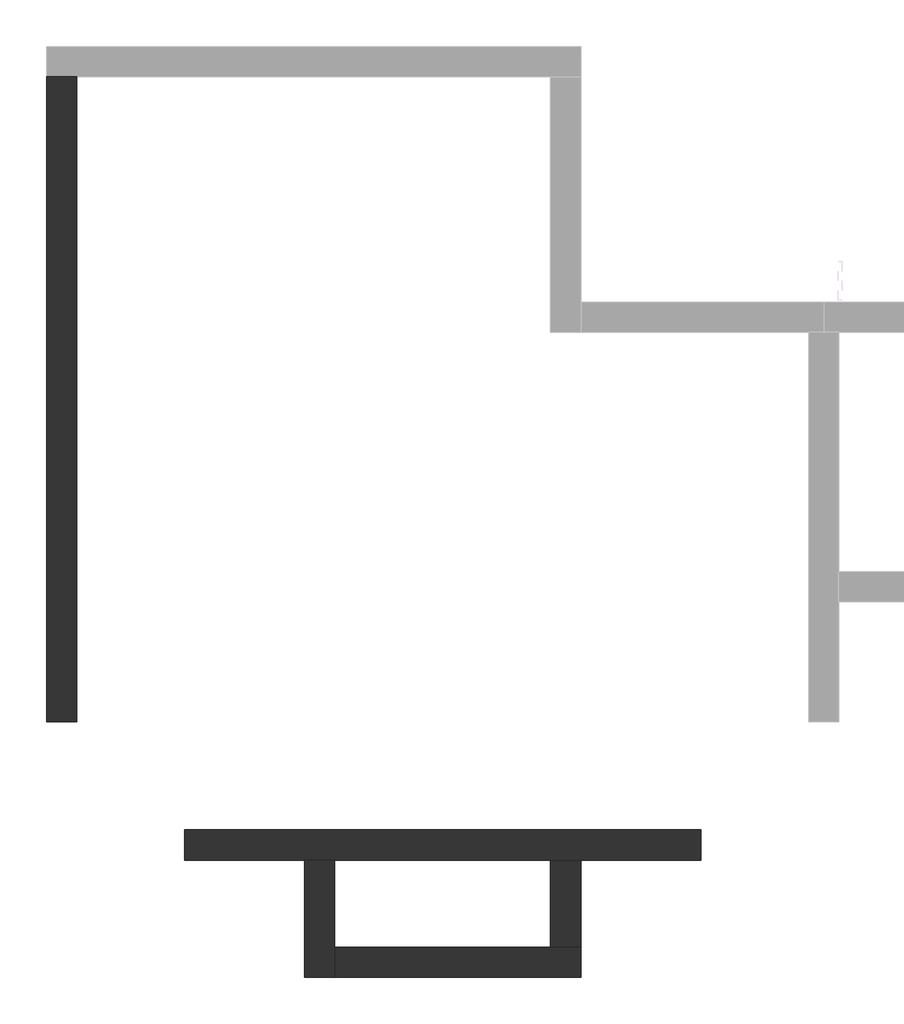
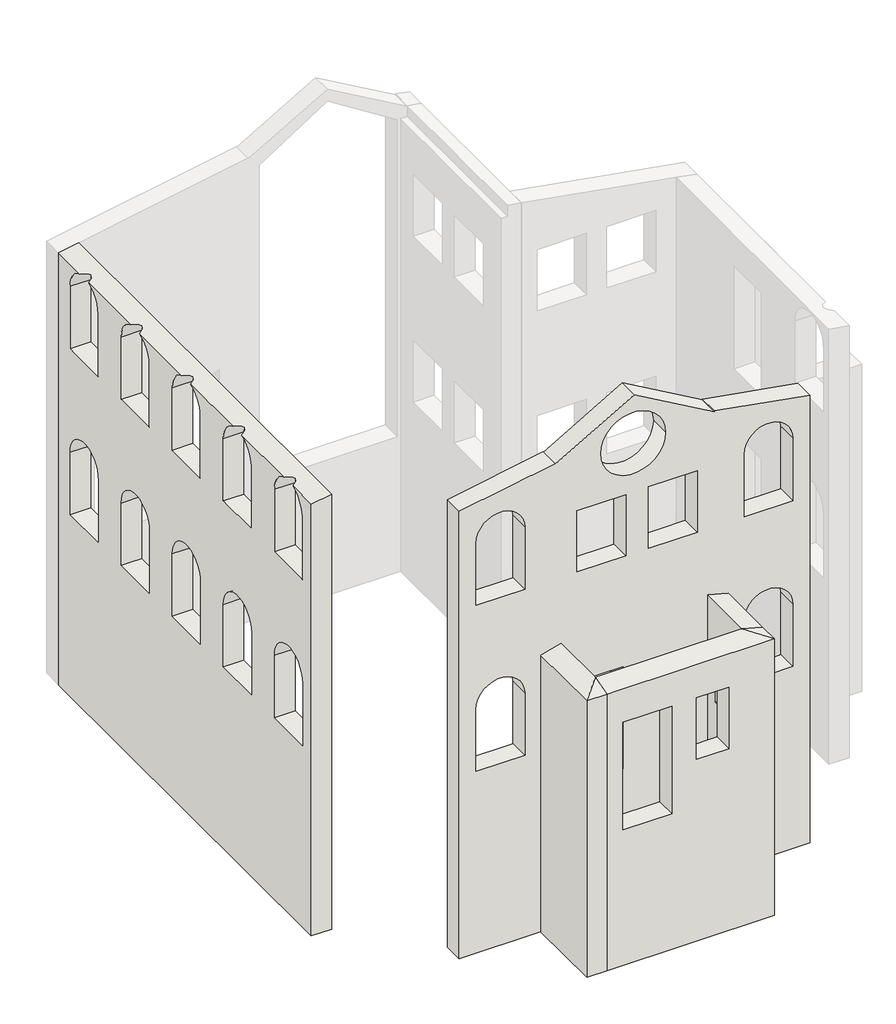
# One storey, part 1 of 2: 5 walls.
"""IFC4 building model written with IfcOpenShell, lengths in millimetres."""

from ifc_helpers import new_model, si_unit, frame, origin, place, context, project, spatial, polyline, circle_curve, ellipse_curve, faceted_brep, element, save
from ifc_brep_helpers import plane_surface, revolved_surface, advanced_brep

model = new_model("IFC4")

# Units and contexts
model_context = context("Model", 3, world=origin())
ifc_project = project(units=[si_unit("LENGTHUNIT", "METRE", prefix="MILLI")], contexts=[model_context])

# Site, building, storey
site = spatial("IfcSite", under=ifc_project)
building = spatial("IfcBuilding", under=site)
storey = spatial("IfcBuildingStorey", under=building, Name="Подвал", Elevation=-2700.0)

# Walls
placement = place(None, origin())
element("IfcWall", 1, ObjectType="1 Типовая", at=placement, inside=storey, context=model_context, shape_type="AdvancedBrep", body=[
    advanced_brep(
    [(-3514.2998207, -2315.5625848, -2700.0), (-10114.2998207, -2315.5625848, -2700.0), (-10114.2998207, -2315.5625848, 6199.3806113), (-8314.2998207, -2315.5625848, 6516.7691766), (-8314.2998207, -2315.5625848, 6500.0), (-6814.2998207, -2315.5625848, 7366.0254038), (-5314.2998207, -2315.5625848, 6500.0), (-5314.2998207, -2315.5625848, 6516.7691766), (-3514.2998207, -2315.5625848, 6199.3806113), (-7894.2998207, -2315.5625848, 0.0), (-7030.2998207, -2315.5625848, 0.0), (-7030.2998207, -2315.5625848, 2032.0), (-7894.2998207, -2315.5625848, 2032.0), (-9794.2998207, -2315.5625848, 2154.05), (-9794.2998207, -2315.5625848, 915.0), (-8879.2998207, -2315.5625848, 915.0), (-8879.2998207, -2315.5625848, 2154.05), (-4749.2998207, -2315.5625848, 2154.05), (-4749.2998207, -2315.5625848, 915.0), (-3834.2998207, -2315.5625848, 915.0), (-3834.2998207, -2315.5625848, 2154.05), (-9794.2998207, -2315.5625848, 5454.05), (-9794.2998207, -2315.5625848, 4215.0), (-8879.2998207, -2315.5625848, 4215.0), (-8879.2998207, -2315.5625848, 5454.05), (-4749.2998207, -2315.5625848, 5454.05), (-4749.2998207, -2315.5625848, 4215.0), (-3834.2998207, -2315.5625848, 4215.0), (-3834.2998207, -2315.5625848, 5454.05), (-7449.2998207, -2315.5625848, 6410.0), (-6229.2998207, -2315.5625848, 6410.0), (-5634.2998207, -2315.5625848, 4215.0), (-5634.2998207, -2315.5625848, 5435.0), (-6549.2998207, -2315.5625848, 5435.0), (-6549.2998207, -2315.5625848, 4215.0), (-6979.2998207, -2315.5625848, 4215.0), (-6979.2998207, -2315.5625848, 5435.0), (-7894.2998207, -2315.5625848, 5435.0), (-7894.2998207, -2315.5625848, 4215.0), (-10114.2998207, -2700.5625848, -2700.0), (-8579.2998207, -2700.5625848, -2700.0), (-8194.2998207, -2700.5625848, -2700.0), (-5434.2998207, -2700.5625848, -2700.0), (-5049.2998207, -2700.5625848, -2700.0), (-3514.2998207, -2700.5625848, -2700.0), (-3514.2998207, -2700.5625848, 6199.3806113), (-5314.2998207, -2700.5625848, 6516.7691766), (-5314.2998207, -2700.5625848, 6500.0), (-6814.2998207, -2700.5625848, 7366.0254038), (-8314.2998207, -2700.5625848, 6500.0), (-8314.2998207, -2700.5625848, 6516.7691766), (-10114.2998207, -2700.5625848, 6199.3806113), (-7030.2998207, -2700.5625848, 0.0), (-7894.2998207, -2700.5625848, 0.0), (-7894.2998207, -2700.5625848, 2032.0), (-7030.2998207, -2700.5625848, 2032.0), (-9794.2998207, -2700.5625848, 915.0), (-9794.2998207, -2700.5625848, 2154.05), (-8879.2998207, -2700.5625848, 2154.05), (-8879.2998207, -2700.5625848, 915.0), (-4749.2998207, -2700.5625848, 915.0), (-4749.2998207, -2700.5625848, 2154.05), (-3834.2998207, -2700.5625848, 2154.05), (-3834.2998207, -2700.5625848, 915.0), (-9794.2998207, -2700.5625848, 4215.0), (-9794.2998207, -2700.5625848, 5454.05), (-8879.2998207, -2700.5625848, 5454.05), (-8879.2998207, -2700.5625848, 4215.0), (-4749.2998207, -2700.5625848, 4215.0), (-4749.2998207, -2700.5625848, 5454.05), (-3834.2998207, -2700.5625848, 5454.05), (-3834.2998207, -2700.5625848, 4215.0), (-6229.2998207, -2700.5625848, 6410.0), (-7449.2998207, -2700.5625848, 6410.0), (-5634.2998207, -2700.5625848, 5435.0), (-5634.2998207, -2700.5625848, 4215.0), (-6549.2998207, -2700.5625848, 4215.0), (-6549.2998207, -2700.5625848, 5435.0), (-6979.2998207, -2700.5625848, 5435.0), (-6979.2998207, -2700.5625848, 4215.0), (-7894.2998207, -2700.5625848, 4215.0), (-7894.2998207, -2700.5625848, 5435.0)],
    [
        (0, 1),
        (1, 2),
        (2, 3),
        (3, 4),
        (4, 5),
        (5, 6),
        (6, 7),
        (7, 8),
        (8, 0),
        (9, 10),
        (10, 11),
        (11, 12),
        (12, 9),
        (13, 14),
        (14, 15),
        (15, 16),
        (16, 13, circle_curve(frame((-9336.7998207, -2315.5625848, 2154.05), z_axis=(0.0, -1.0, 0.0), x_axis=(-1.0, 0.0, 0.0)), 457.5)),
        (17, 18),
        (18, 19),
        (19, 20),
        (20, 17, circle_curve(frame((-4291.7998207, -2315.5625848, 2154.05), z_axis=(0.0, -1.0, 0.0), x_axis=(-1.0, 0.0, 0.0)), 457.5)),
        (21, 22),
        (22, 23),
        (23, 24),
        (24, 21, circle_curve(frame((-9336.7998207, -2315.5625848, 5454.05), z_axis=(0.0, -1.0, 0.0), x_axis=(-1.0, 0.0, 0.0)), 457.5)),
        (25, 26),
        (26, 27),
        (27, 28),
        (28, 25, circle_curve(frame((-4291.7998207, -2315.5625848, 5454.05), z_axis=(0.0, -1.0, 0.0), x_axis=(-1.0, 0.0, 0.0)), 457.5)),
        (29, 30, circle_curve(frame((-6839.2998207, -2315.5625848, 6410.0), z_axis=(0.0, -1.0, 0.0), x_axis=(1.0, 0.0, 0.0)), 610.0)),
        (30, 29, circle_curve(frame((-6839.2998207, -2315.5625848, 6410.0), z_axis=(0.0, -1.0, 0.0), x_axis=(1.0, 0.0, 0.0)), 610.0)),
        (31, 32),
        (32, 33),
        (33, 34),
        (34, 31),
        (35, 36),
        (36, 37),
        (37, 38),
        (38, 35),
        (39, 40),
        (40, 41),
        (41, 42),
        (42, 43),
        (43, 44),
        (44, 45),
        (45, 46),
        (46, 47),
        (47, 48),
        (48, 49),
        (49, 50),
        (50, 51),
        (51, 39),
        (52, 53),
        (53, 54),
        (54, 55),
        (55, 52),
        (56, 57),
        (57, 58, circle_curve(frame((-9336.7998207, -2700.5625848, 2154.05), z_axis=(0.0, 1.0, 0.0), x_axis=(-1.0, 0.0, 0.0)), 457.5)),
        (58, 59),
        (59, 56),
        (60, 61),
        (61, 62, circle_curve(frame((-4291.7998207, -2700.5625848, 2154.05), z_axis=(0.0, 1.0, 0.0), x_axis=(-1.0, 0.0, 0.0)), 457.5)),
        (62, 63),
        (63, 60),
        (64, 65),
        (65, 66, circle_curve(frame((-9336.7998207, -2700.5625848, 5454.05), z_axis=(0.0, 1.0, 0.0), x_axis=(-1.0, 0.0, 0.0)), 457.5)),
        (66, 67),
        (67, 64),
        (68, 69),
        (69, 70, circle_curve(frame((-4291.7998207, -2700.5625848, 5454.05), z_axis=(0.0, 1.0, 0.0), x_axis=(-1.0, 0.0, 0.0)), 457.5)),
        (70, 71),
        (71, 68),
        (72, 73, circle_curve(frame((-6839.2998207, -2700.5625848, 6410.0), z_axis=(0.0, 1.0, 0.0), x_axis=(1.0, 0.0, 0.0)), 610.0)),
        (73, 72, circle_curve(frame((-6839.2998207, -2700.5625848, 6410.0), z_axis=(0.0, 1.0, 0.0), x_axis=(1.0, 0.0, 0.0)), 610.0)),
        (74, 75),
        (75, 76),
        (76, 77),
        (77, 74),
        (78, 79),
        (79, 80),
        (80, 81),
        (81, 78),
        (0, 44),
        (39, 1),
        (51, 2),
        (8, 45),
        (52, 10),
        (9, 53),
        (12, 54),
        (11, 55),
        (13, 57),
        (56, 14),
        (59, 15),
        (58, 16),
        (17, 61),
        (60, 18),
        (63, 19),
        (62, 20),
        (21, 65),
        (64, 22),
        (67, 23),
        (66, 24),
        (25, 69),
        (68, 26),
        (71, 27),
        (70, 28),
        (6, 47),
        (46, 7),
        (49, 4),
        (3, 50),
        (5, 48),
        (29, 73),
        (72, 30),
        (31, 75),
        (74, 32),
        (77, 33),
        (76, 34),
        (35, 79),
        (78, 36),
        (81, 37),
        (80, 38),
    ],
    [
        plane_surface(frame((-2014.2998207, -2315.5625848, -2700.0), z_axis=(0.0, 1.0, 0.0), x_axis=(-1.0, 0.0, 0.0))),
        plane_surface(frame((-2014.2998207, -2700.5625848, -2700.0), z_axis=(0.0, -1.0, 0.0), x_axis=(1.0, 0.0, 0.0))),
        plane_surface(frame((-3514.2998207, -2315.5625848, -2700.0), z_axis=(0.0, 0.0, -1.0), x_axis=(0.0, -1.0, 0.0))),
        plane_surface(frame((-10114.2998207, -2315.5625848, -2700.0), z_axis=(-1.0, 0.0, 0.0), x_axis=(0.0, -1.0, 0.0))),
        plane_surface(frame((-3514.2998207, -2315.5625848, 6300.0), z_axis=(1.0, 0.0, 0.0), x_axis=(0.0, -1.0, 0.0))),
        plane_surface(frame((-7030.2998207, -2700.5625848, 0.0), z_axis=(0.0, 0.0, 1.0), x_axis=(0.0, 1.0, 0.0))),
        plane_surface(frame((-7894.2998207, -2700.5625848, 0.0), z_axis=(1.0, 0.0, 0.0), x_axis=(0.0, 1.0, 0.0))),
        plane_surface(frame((-7894.2998207, -2700.5625848, 2032.0), z_axis=(0.0, 0.0, -1.0), x_axis=(0.0, 1.0, 0.0))),
        plane_surface(frame((-7030.2998207, -2700.5625848, 2032.0), z_axis=(-1.0, 0.0, 0.0), x_axis=(0.0, 1.0, 0.0))),
        plane_surface(frame((-9794.2998207, -2315.5625848, 2154.05), z_axis=(1.0, 0.0, 0.0), x_axis=(0.0, -1.0, 0.0))),
        plane_surface(frame((-9794.2998207, -2315.5625848, 915.0), z_axis=(0.0, 0.0, 1.0), x_axis=(0.0, -1.0, 0.0))),
        plane_surface(frame((-8879.2998207, -2315.5625848, 915.0), z_axis=(-1.0, 0.0, 0.0), x_axis=(0.0, -1.0, 0.0))),
        revolved_surface(polyline([(-9794.2998207, -2700.5625848, 2154.05), (-9794.2998207, -2315.5625848, 2154.05)]), (-9336.7998207, -2315.5625848, 2154.05), (0.0, -1.0, 0.0)),
        plane_surface(frame((-4749.2998207, -2315.5625848, 2154.05), z_axis=(1.0, 0.0, 0.0), x_axis=(0.0, -1.0, 0.0))),
        plane_surface(frame((-4749.2998207, -2315.5625848, 915.0), z_axis=(0.0, 0.0, 1.0), x_axis=(0.0, -1.0, 0.0))),
        plane_surface(frame((-3834.2998207, -2315.5625848, 915.0), z_axis=(-1.0, 0.0, 0.0), x_axis=(0.0, -1.0, 0.0))),
        revolved_surface(polyline([(-4749.2998207, -2700.5625848, 2154.05), (-4749.2998207, -2315.5625848, 2154.05)]), (-4291.7998207, -2315.5625848, 2154.05), (0.0, -1.0, 0.0)),
        plane_surface(frame((-9794.2998207, -2315.5625848, 5454.05), z_axis=(1.0, 0.0, 0.0), x_axis=(0.0, -1.0, 0.0))),
        plane_surface(frame((-9794.2998207, -2315.5625848, 4215.0), z_axis=(0.0, 0.0, 1.0), x_axis=(0.0, -1.0, 0.0))),
        plane_surface(frame((-8879.2998207, -2315.5625848, 4215.0), z_axis=(-1.0, 0.0, 0.0), x_axis=(0.0, -1.0, 0.0))),
        revolved_surface(polyline([(-9794.2998207, -2700.5625848, 5454.05), (-9794.2998207, -2315.5625848, 5454.05)]), (-9336.7998207, -2315.5625848, 5454.05), (0.0, -1.0, 0.0)),
        plane_surface(frame((-4749.2998207, -2315.5625848, 5454.05), z_axis=(1.0, 0.0, 0.0), x_axis=(0.0, -1.0, 0.0))),
        plane_surface(frame((-4749.2998207, -2315.5625848, 4215.0), z_axis=(0.0, 0.0, 1.0), x_axis=(0.0, -1.0, 0.0))),
        plane_surface(frame((-3834.2998207, -2315.5625848, 4215.0), z_axis=(-1.0, 0.0, 0.0), x_axis=(0.0, -1.0, 0.0))),
        revolved_surface(polyline([(-4749.2998207, -2700.5625848, 5454.05), (-4749.2998207, -2315.5625848, 5454.05)]), (-4291.7998207, -2315.5625848, 5454.05), (0.0, -1.0, 0.0)),
        plane_surface(frame((-5314.2998207, 2496.9374152, 6500.0), z_axis=(-1.0, 0.0, 0.0), x_axis=(0.0, 1.0, 0.0))),
        plane_surface(frame((-8314.2998207, 2496.9374152, 6500.0), z_axis=(1.0, 0.0, 0.0), x_axis=(0.0, -1.0, 0.0))),
        plane_surface(frame((-12379.2998207, 8194.4374152, 5800.0), z_axis=(-0.17364817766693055, 0.0, 0.9848077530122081), x_axis=(0.0, -1.0, 0.0))),
        plane_surface(frame((-1249.2998207, -3200.5625848, 5800.0), z_axis=(0.17364817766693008, 0.0, 0.9848077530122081), x_axis=(0.0, 1.0, 0.0))),
        plane_surface(frame((-5314.2998207, -3200.5625848, 6500.0), z_axis=(0.5000000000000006, 0.0, 0.8660254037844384), x_axis=(0.0, 1.0, 0.0))),
        plane_surface(frame((-8314.2998207, 8194.4374152, 6500.0), z_axis=(-0.5000000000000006, 0.0, 0.8660254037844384), x_axis=(0.0, -1.0, 0.0))),
        revolved_surface(polyline([(-6229.2998207, -2700.5625848, 6410.0), (-6229.2998207, -2315.5625848, 6410.0)]), (-6839.2998207, -1176.5625848, 6410.0), (0.0, -1.0, 0.0)),
        plane_surface(frame((-5634.2998207, -3839.5625848, 4215.0), z_axis=(-1.0, 0.0, 0.0), x_axis=(0.0, 1.0, 0.0))),
        plane_surface(frame((-5634.2998207, -3839.5625848, 5435.0), z_axis=(0.0, 0.0, -1.0), x_axis=(0.0, 1.0, 0.0))),
        plane_surface(frame((-6549.2998207, -3839.5625848, 5435.0), z_axis=(1.0, 0.0, 0.0), x_axis=(0.0, 1.0, 0.0))),
        plane_surface(frame((-6549.2998207, -3839.5625848, 4215.0), z_axis=(0.0, 0.0, 1.0), x_axis=(0.0, 1.0, 0.0))),
        plane_surface(frame((-6979.2998207, -3839.5625848, 4215.0), z_axis=(-1.0, 0.0, 0.0), x_axis=(0.0, 1.0, 0.0))),
        plane_surface(frame((-6979.2998207, -3839.5625848, 5435.0), z_axis=(0.0, 0.0, -1.0), x_axis=(0.0, 1.0, 0.0))),
        plane_surface(frame((-7894.2998207, -3839.5625848, 5435.0), z_axis=(1.0, 0.0, 0.0), x_axis=(0.0, 1.0, 0.0))),
        plane_surface(frame((-7894.2998207, -3839.5625848, 4215.0), z_axis=(0.0, 0.0, 1.0), x_axis=(0.0, 1.0, 0.0))),
    ],
    [
        (0, [[1, 2, 3, 4, 5, 6, 7, 8, 9], [10, 11, 12, 13], [14, 15, 16, 17], [18, 19, 20, 21], [22, 23, 24, 25], [26, 27, 28, 29], [30, 31], [32, 33, 34, 35], [36, 37, 38, 39]]),
        (1, [[40, 41, 42, 43, 44, 45, 46, 47, 48, 49, 50, 51, 52], [53, 54, 55, 56], [57, 58, 59, 60], [61, 62, 63, 64], [65, 66, 67, 68], [69, 70, 71, 72], [73, 74], [75, 76, 77, 78], [79, 80, 81, 82]]),
        (2, [[-1, 83, -44, -43, -42, -41, -40, 84]]),
        (3, [[-2, -84, -52, 85]]),
        (4, [[-9, 86, -45, -83]]),
        (5, [[-53, 87, -10, 88]]),
        (6, [[-54, -88, -13, 89]]),
        (7, [[-55, -89, -12, 90]]),
        (8, [[-56, -90, -11, -87]]),
        (9, [[-14, 91, -57, 92]]),
        (10, [[-15, -92, -60, 93]]),
        (11, [[-16, -93, -59, 94]]),
        (12, [[-17, -94, -58, -91]]),
        (13, [[-18, 95, -61, 96]]),
        (14, [[-19, -96, -64, 97]]),
        (15, [[-20, -97, -63, 98]]),
        (16, [[-21, -98, -62, -95]]),
        (17, [[-22, 99, -65, 100]]),
        (18, [[-23, -100, -68, 101]]),
        (19, [[-24, -101, -67, 102]]),
        (20, [[-25, -102, -66, -99]]),
        (21, [[-26, 103, -69, 104]]),
        (22, [[-27, -104, -72, 105]]),
        (23, [[-28, -105, -71, 106]]),
        (24, [[-29, -106, -70, -103]]),
        (25, [[-7, 107, -47, 108]]),
        (26, [[-50, 109, -4, 110]]),
        (27, [[-85, -51, -110, -3]]),
        (28, [[-86, -8, -108, -46]]),
        (29, [[-107, -6, 111, -48]]),
        (30, [[-109, -49, -111, -5]]),
        (31, [[112, -73, 113, -30]]),
        (31, [[-112, -31, -113, -74]]),
        (32, [[114, -75, 115, -32]]),
        (33, [[-115, -78, 116, -33]]),
        (34, [[-116, -77, 117, -34]]),
        (35, [[-114, -35, -117, -76]]),
        (36, [[118, -79, 119, -36]]),
        (37, [[-119, -82, 120, -37]]),
        (38, [[-120, -81, 121, -38]]),
        (39, [[-118, -39, -121, -80]]),
    ],
),
])
element("IfcWall", 2, ObjectType="1 Типовая", at=placement, inside=storey, context=model_context, shape_type="AdvancedBrep", body=[
    advanced_brep(
    [(-11494.2998207, -935.5625848, -2700.0), (-11494.2998207, 7309.4374152, -2700.0), (-11494.2998207, 7309.4374152, 5956.0493779), (-11494.2998207, 2616.9374152, 5956.0493779), (-11494.2998207, 2376.9374152, 5956.0493779), (-11494.2998207, -935.5625848, 5956.0493779), (-11494.2998207, 264.4374152, 2154.05), (-11494.2998207, 264.4374152, 915.0), (-11494.2998207, -650.5625848, 915.0), (-11494.2998207, -650.5625848, 2154.05), (-11494.2998207, 1929.4374152, 2154.05), (-11494.2998207, 1929.4374152, 915.0), (-11494.2998207, 1014.4374152, 915.0), (-11494.2998207, 1014.4374152, 2154.05), (-11494.2998207, 3594.4374152, 2154.05), (-11494.2998207, 3594.4374152, 915.0), (-11494.2998207, 2679.4374152, 915.0), (-11494.2998207, 2679.4374152, 2154.05), (-11494.2998207, 5259.4374152, 2154.05), (-11494.2998207, 5259.4374152, 915.0), (-11494.2998207, 4344.4374152, 915.0), (-11494.2998207, 4344.4374152, 2154.05), (-11494.2998207, 6924.4374152, 2154.05), (-11494.2998207, 6924.4374152, 915.0), (-11494.2998207, 6009.4374152, 915.0), (-11494.2998207, 6009.4374152, 2154.05), (-11494.2998207, 6924.4374152, 5454.05), (-11494.2998207, 6924.4374152, 4215.0), (-11494.2998207, 6009.4374152, 4215.0), (-11494.2998207, 6009.4374152, 5454.05), (-11494.2998207, 5259.4374152, 5454.05), (-11494.2998207, 5259.4374152, 4215.0), (-11494.2998207, 4344.4374152, 4215.0), (-11494.2998207, 4344.4374152, 5454.05), (-11494.2998207, 3594.4374152, 5454.05), (-11494.2998207, 3594.4374152, 4215.0), (-11494.2998207, 2679.4374152, 4215.0), (-11494.2998207, 2679.4374152, 5454.05), (-11494.2998207, 1929.4374152, 5454.05), (-11494.2998207, 1929.4374152, 4215.0), (-11494.2998207, 1014.4374152, 4215.0), (-11494.2998207, 1014.4374152, 5454.05), (-11494.2998207, 264.4374152, 5454.05), (-11494.2998207, 264.4374152, 4215.0), (-11494.2998207, -650.5625848, 4215.0), (-11494.2998207, -650.5625848, 5454.05), (-11879.2998207, 7309.4374152, -2700.0), (-11879.2998207, -935.5625848, -2700.0), (-11879.2998207, -935.5625848, 5888.1634904), (-11879.2998207, -337.4638573, 5888.1634904), (-11879.2998207, -650.5625848, 5454.05), (-11879.2998207, -650.5625848, 4215.0), (-11879.2998207, 264.4374152, 4215.0), (-11879.2998207, 264.4374152, 5454.05), (-11879.2998207, -48.6613123, 5888.1634904), (-11879.2998207, 1327.5361427, 5888.1634904), (-11879.2998207, 1014.4374152, 5454.05), (-11879.2998207, 1014.4374152, 4215.0), (-11879.2998207, 1929.4374152, 4215.0), (-11879.2998207, 1929.4374152, 5454.05), (-11879.2998207, 1616.3386877, 5888.1634904), (-11879.2998207, 2992.5361427, 5888.1634904), (-11879.2998207, 2679.4374152, 5454.05), (-11879.2998207, 2679.4374152, 4215.0), (-11879.2998207, 3594.4374152, 4215.0), (-11879.2998207, 3594.4374152, 5454.05), (-11879.2998207, 3281.3386877, 5888.1634904), (-11879.2998207, 4657.5361427, 5888.1634904), (-11879.2998207, 4344.4374152, 5454.05), (-11879.2998207, 4344.4374152, 4215.0), (-11879.2998207, 5259.4374152, 4215.0), (-11879.2998207, 5259.4374152, 5454.05), (-11879.2998207, 4946.3386877, 5888.1634904), (-11879.2998207, 6322.5361427, 5888.1634904), (-11879.2998207, 6009.4374152, 5454.05), (-11879.2998207, 6009.4374152, 4215.0), (-11879.2998207, 6924.4374152, 4215.0), (-11879.2998207, 6924.4374152, 5454.05), (-11879.2998207, 6611.3386877, 5888.1634904), (-11879.2998207, 7309.4374152, 5888.1634904), (-11879.2998207, 264.4374152, 2154.05), (-11879.2998207, -650.5625848, 2154.05), (-11879.2998207, -650.5625848, 915.0), (-11879.2998207, 264.4374152, 915.0), (-11879.2998207, 1929.4374152, 2154.05), (-11879.2998207, 1014.4374152, 2154.05), (-11879.2998207, 1014.4374152, 915.0), (-11879.2998207, 1929.4374152, 915.0), (-11879.2998207, 3594.4374152, 2154.05), (-11879.2998207, 2679.4374152, 2154.05), (-11879.2998207, 2679.4374152, 915.0), (-11879.2998207, 3594.4374152, 915.0), (-11879.2998207, 5259.4374152, 2154.05), (-11879.2998207, 4344.4374152, 2154.05), (-11879.2998207, 4344.4374152, 915.0), (-11879.2998207, 5259.4374152, 915.0), (-11879.2998207, 6924.4374152, 2154.05), (-11879.2998207, 6009.4374152, 2154.05), (-11879.2998207, 6009.4374152, 915.0), (-11879.2998207, 6924.4374152, 915.0)],
    [
        (0, 1),
        (1, 2),
        (2, 3),
        (3, 4),
        (4, 5),
        (5, 0),
        (6, 7),
        (7, 8),
        (8, 9),
        (9, 6, circle_curve(frame((-11494.2998207, -193.0625848, 2154.05), z_axis=(-1.0, 0.0, 0.0), x_axis=(0.0, 1.0, 0.0)), 457.5)),
        (10, 11),
        (11, 12),
        (12, 13),
        (13, 10, circle_curve(frame((-11494.2998207, 1471.9374152, 2154.05), z_axis=(-1.0, 0.0, 0.0), x_axis=(0.0, 1.0, 0.0)), 457.5)),
        (14, 15),
        (15, 16),
        (16, 17),
        (17, 14, circle_curve(frame((-11494.2998207, 3136.9374152, 2154.05), z_axis=(-1.0, 0.0, 0.0), x_axis=(0.0, 1.0, 0.0)), 457.5)),
        (18, 19),
        (19, 20),
        (20, 21),
        (21, 18, circle_curve(frame((-11494.2998207, 4801.9374152, 2154.05), z_axis=(-1.0, 0.0, 0.0), x_axis=(0.0, 1.0, 0.0)), 457.5)),
        (22, 23),
        (23, 24),
        (24, 25),
        (25, 22, circle_curve(frame((-11494.2998207, 6466.9374152, 2154.05), z_axis=(-1.0, 0.0, 0.0), x_axis=(0.0, 1.0, 0.0)), 457.5)),
        (26, 27),
        (27, 28),
        (28, 29),
        (29, 26, circle_curve(frame((-11494.2998207, 6466.9374152, 5454.05), z_axis=(-1.0, 0.0, 0.0), x_axis=(0.0, 1.0, 0.0)), 457.5)),
        (30, 31),
        (31, 32),
        (32, 33),
        (33, 30, circle_curve(frame((-11494.2998207, 4801.9374152, 5454.05), z_axis=(-1.0, 0.0, 0.0), x_axis=(0.0, 1.0, 0.0)), 457.5)),
        (34, 35),
        (35, 36),
        (36, 37),
        (37, 34, circle_curve(frame((-11494.2998207, 3136.9374152, 5454.05), z_axis=(-1.0, 0.0, 0.0), x_axis=(0.0, 1.0, 0.0)), 457.5)),
        (38, 39),
        (39, 40),
        (40, 41),
        (41, 38, circle_curve(frame((-11494.2998207, 1471.9374152, 5454.05), z_axis=(-1.0, 0.0, 0.0), x_axis=(0.0, 1.0, 0.0)), 457.5)),
        (42, 43),
        (43, 44),
        (44, 45),
        (45, 42, circle_curve(frame((-11494.2998207, -193.0625848, 5454.05), z_axis=(-1.0, 0.0, 0.0), x_axis=(0.0, 1.0, 0.0)), 457.5)),
        (46, 47),
        (47, 48),
        (48, 49),
        (49, 50, circle_curve(frame((-11879.2998207, -193.0625848, 5454.05), z_axis=(1.0, 0.0, 0.0), x_axis=(0.0, 1.0, 0.0)), 457.5)),
        (50, 51),
        (51, 52),
        (52, 53),
        (53, 54, circle_curve(frame((-11879.2998207, -193.0625848, 5454.05), z_axis=(1.0, 0.0, 0.0), x_axis=(0.0, 1.0, 0.0)), 457.5)),
        (54, 55),
        (55, 56, circle_curve(frame((-11879.2998207, 1471.9374152, 5454.05), z_axis=(1.0, 0.0, 0.0), x_axis=(0.0, 1.0, 0.0)), 457.5)),
        (56, 57),
        (57, 58),
        (58, 59),
        (59, 60, circle_curve(frame((-11879.2998207, 1471.9374152, 5454.05), z_axis=(1.0, 0.0, 0.0), x_axis=(0.0, 1.0, 0.0)), 457.5)),
        (60, 61),
        (61, 62, circle_curve(frame((-11879.2998207, 3136.9374152, 5454.05), z_axis=(1.0, 0.0, 0.0), x_axis=(0.0, 1.0, 0.0)), 457.5)),
        (62, 63),
        (63, 64),
        (64, 65),
        (65, 66, circle_curve(frame((-11879.2998207, 3136.9374152, 5454.05), z_axis=(1.0, 0.0, 0.0), x_axis=(0.0, 1.0, 0.0)), 457.5)),
        (66, 67),
        (67, 68, circle_curve(frame((-11879.2998207, 4801.9374152, 5454.05), z_axis=(1.0, 0.0, 0.0), x_axis=(0.0, 1.0, 0.0)), 457.5)),
        (68, 69),
        (69, 70),
        (70, 71),
        (71, 72, circle_curve(frame((-11879.2998207, 4801.9374152, 5454.05), z_axis=(1.0, 0.0, 0.0), x_axis=(0.0, 1.0, 0.0)), 457.5)),
        (72, 73),
        (73, 74, circle_curve(frame((-11879.2998207, 6466.9374152, 5454.05), z_axis=(1.0, 0.0, 0.0), x_axis=(0.0, 1.0, 0.0)), 457.5)),
        (74, 75),
        (75, 76),
        (76, 77),
        (77, 78, circle_curve(frame((-11879.2998207, 6466.9374152, 5454.05), z_axis=(1.0, 0.0, 0.0), x_axis=(0.0, 1.0, 0.0)), 457.5)),
        (78, 79),
        (79, 46),
        (80, 81, circle_curve(frame((-11879.2998207, -193.0625848, 2154.05), z_axis=(1.0, 0.0, 0.0), x_axis=(0.0, 1.0, 0.0)), 457.5)),
        (81, 82),
        (82, 83),
        (83, 80),
        (84, 85, circle_curve(frame((-11879.2998207, 1471.9374152, 2154.05), z_axis=(1.0, 0.0, 0.0), x_axis=(0.0, 1.0, 0.0)), 457.5)),
        (85, 86),
        (86, 87),
        (87, 84),
        (88, 89, circle_curve(frame((-11879.2998207, 3136.9374152, 2154.05), z_axis=(1.0, 0.0, 0.0), x_axis=(0.0, 1.0, 0.0)), 457.5)),
        (89, 90),
        (90, 91),
        (91, 88),
        (92, 93, circle_curve(frame((-11879.2998207, 4801.9374152, 2154.05), z_axis=(1.0, 0.0, 0.0), x_axis=(0.0, 1.0, 0.0)), 457.5)),
        (93, 94),
        (94, 95),
        (95, 92),
        (96, 97, circle_curve(frame((-11879.2998207, 6466.9374152, 2154.05), z_axis=(1.0, 0.0, 0.0), x_axis=(0.0, 1.0, 0.0)), 457.5)),
        (97, 98),
        (98, 99),
        (99, 96),
        (0, 47),
        (46, 1),
        (5, 48),
        (79, 2),
        (6, 80),
        (83, 7),
        (82, 8),
        (81, 9),
        (10, 84),
        (87, 11),
        (86, 12),
        (85, 13),
        (14, 88),
        (91, 15),
        (90, 16),
        (89, 17),
        (18, 92),
        (95, 19),
        (94, 20),
        (93, 21),
        (22, 96),
        (99, 23),
        (98, 24),
        (97, 25),
        (78, 73, ellipse_curve(frame((-14341.2797662, 6466.9374152, 5454.05), z_axis=(0.17364817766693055, 0.0, -0.9848077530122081), x_axis=(-0.9848077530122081, 0.0, -0.17364817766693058)), 2634.637496, 457.5)),
        (72, 67, ellipse_curve(frame((-14341.2797662, 4801.9374152, 5454.05), z_axis=(0.17364817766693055, 0.0, -0.9848077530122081), x_axis=(-0.9848077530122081, 0.0, -0.17364817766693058)), 2634.637496, 457.5)),
        (66, 61, ellipse_curve(frame((-14341.2797662, 3136.9374152, 5454.05), z_axis=(0.17364817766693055, 0.0, -0.9848077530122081), x_axis=(-0.9848077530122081, 0.0, -0.17364817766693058)), 2634.637496, 457.5)),
        (60, 55, ellipse_curve(frame((-14341.2797662, 1471.9374152, 5454.05), z_axis=(0.17364817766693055, 0.0, -0.9848077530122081), x_axis=(-0.9848077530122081, 0.0, -0.17364817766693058)), 2634.637496, 457.5)),
        (54, 49, ellipse_curve(frame((-14341.2797662, -193.0625848, 5454.05), z_axis=(0.17364817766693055, 0.0, -0.9848077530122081), x_axis=(-0.9848077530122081, 0.0, -0.17364817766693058)), 2634.637496, 457.5)),
        (26, 77),
        (76, 27),
        (75, 28),
        (74, 29),
        (30, 71),
        (70, 31),
        (69, 32),
        (68, 33),
        (34, 65),
        (64, 35),
        (63, 36),
        (62, 37),
        (38, 59),
        (58, 39),
        (57, 40),
        (56, 41),
        (42, 53),
        (52, 43),
        (51, 44),
        (50, 45),
    ],
    [
        plane_surface(frame((-11494.2998207, -2435.5625848, -2700.0), z_axis=(1.0, 0.0, 0.0), x_axis=(0.0, 1.0, 0.0))),
        plane_surface(frame((-11879.2998207, -2435.5625848, -2700.0), z_axis=(-1.0, 0.0, 0.0), x_axis=(0.0, -1.0, 0.0))),
        plane_surface(frame((-11494.2998207, -935.5625848, -2700.0), z_axis=(0.0, 0.0, -1.0), x_axis=(-1.0, 0.0, 0.0))),
        plane_surface(frame((-11494.2998207, -935.5625848, 6300.0), z_axis=(0.0, -1.0, 0.0), x_axis=(-1.0, 0.0, 0.0))),
        plane_surface(frame((-11614.2998207, 7309.4374152, -2700.0), z_axis=(0.0, 1.0, 0.0), x_axis=(1.0, 0.0, 0.0))),
        plane_surface(frame((-11494.2998207, 264.4374152, 2154.05), z_axis=(0.0, -1.0, 0.0), x_axis=(-1.0, 0.0, 0.0))),
        plane_surface(frame((-11494.2998207, 264.4374152, 915.0), z_axis=(0.0, 0.0, 1.0), x_axis=(-1.0, 0.0, 0.0))),
        plane_surface(frame((-11494.2998207, -650.5625848, 915.0), z_axis=(0.0, 1.0, 0.0), x_axis=(-1.0, 0.0, 0.0))),
        revolved_surface(polyline([(-11879.2998207, 264.43741520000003, 2154.05), (-11494.2998207, 264.43741520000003, 2154.05)]), (-11494.2998207, -193.0625848, 2154.05), (-1.0, 0.0, 0.0)),
        plane_surface(frame((-11494.2998207, 1929.4374152, 2154.05), z_axis=(0.0, -1.0, 0.0), x_axis=(-1.0, 0.0, 0.0))),
        plane_surface(frame((-11494.2998207, 1929.4374152, 915.0), z_axis=(0.0, 0.0, 1.0), x_axis=(-1.0, 0.0, 0.0))),
        plane_surface(frame((-11494.2998207, 1014.4374152, 915.0), z_axis=(0.0, 1.0, 0.0), x_axis=(-1.0, 0.0, 0.0))),
        revolved_surface(polyline([(-11879.2998207, 1929.4374152, 2154.05), (-11494.2998207, 1929.4374152, 2154.05)]), (-11494.2998207, 1471.9374152, 2154.05), (-1.0, 0.0, 0.0)),
        plane_surface(frame((-11494.2998207, 3594.4374152, 2154.05), z_axis=(0.0, -1.0, 0.0), x_axis=(-1.0, 0.0, 0.0))),
        plane_surface(frame((-11494.2998207, 3594.4374152, 915.0), z_axis=(0.0, 0.0, 1.0), x_axis=(-1.0, 0.0, 0.0))),
        plane_surface(frame((-11494.2998207, 2679.4374152, 915.0), z_axis=(0.0, 1.0, 0.0), x_axis=(-1.0, 0.0, 0.0))),
        revolved_surface(polyline([(-11879.2998207, 3594.4374152, 2154.05), (-11494.2998207, 3594.4374152, 2154.05)]), (-11494.2998207, 3136.9374152, 2154.05), (-1.0, 0.0, 0.0)),
        plane_surface(frame((-11494.2998207, 5259.4374152, 2154.05), z_axis=(0.0, -1.0, 0.0), x_axis=(-1.0, 0.0, 0.0))),
        plane_surface(frame((-11494.2998207, 5259.4374152, 915.0), z_axis=(0.0, 0.0, 1.0), x_axis=(-1.0, 0.0, 0.0))),
        plane_surface(frame((-11494.2998207, 4344.4374152, 915.0), z_axis=(0.0, 1.0, 0.0), x_axis=(-1.0, 0.0, 0.0))),
        revolved_surface(polyline([(-11879.2998207, 5259.4374152, 2154.05), (-11494.2998207, 5259.4374152, 2154.05)]), (-11494.2998207, 4801.9374152, 2154.05), (-1.0, 0.0, 0.0)),
        plane_surface(frame((-11494.2998207, 6924.4374152, 2154.05), z_axis=(0.0, -1.0, 0.0), x_axis=(-1.0, 0.0, 0.0))),
        plane_surface(frame((-11494.2998207, 6924.4374152, 915.0), z_axis=(0.0, 0.0, 1.0), x_axis=(-1.0, 0.0, 0.0))),
        plane_surface(frame((-11494.2998207, 6009.4374152, 915.0), z_axis=(0.0, 1.0, 0.0), x_axis=(-1.0, 0.0, 0.0))),
        revolved_surface(polyline([(-11879.2998207, 6924.4374152, 2154.05), (-11494.2998207, 6924.4374152, 2154.05)]), (-11494.2998207, 6466.9374152, 2154.05), (-1.0, 0.0, 0.0)),
        plane_surface(frame((-12379.2998207, 8194.4374152, 5800.0), z_axis=(-0.17364817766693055, 0.0, 0.9848077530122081), x_axis=(0.0, -1.0, 0.0))),
        plane_surface(frame((-13018.2998207, 6924.4374152, 5454.05), z_axis=(0.0, -1.0, 0.0), x_axis=(1.0, 0.0, 0.0))),
        plane_surface(frame((-13018.2998207, 6924.4374152, 4215.0), z_axis=(0.0, 0.0, 1.0), x_axis=(1.0, 0.0, 0.0))),
        plane_surface(frame((-13018.2998207, 6009.4374152, 4215.0), z_axis=(0.0, 1.0, 0.0), x_axis=(1.0, 0.0, 0.0))),
        revolved_surface(polyline([(-16935.89119863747, 6924.4374152, 5454.05), (-11494.2998207, 6924.4374152, 5454.05)]), (-9970.2998207, 6466.9374152, 5454.05), (-1.0, 0.0, 0.0)),
        plane_surface(frame((-13018.2998207, 5259.4374152, 5454.05), z_axis=(0.0, -1.0, 0.0), x_axis=(1.0, 0.0, 0.0))),
        plane_surface(frame((-13018.2998207, 5259.4374152, 4215.0), z_axis=(0.0, 0.0, 1.0), x_axis=(1.0, 0.0, 0.0))),
        plane_surface(frame((-13018.2998207, 4344.4374152, 4215.0), z_axis=(0.0, 1.0, 0.0), x_axis=(1.0, 0.0, 0.0))),
        revolved_surface(polyline([(-16935.89119863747, 5259.4374152, 5454.05), (-11494.2998207, 5259.4374152, 5454.05)]), (-9970.2998207, 4801.9374152, 5454.05), (-1.0, 0.0, 0.0)),
        plane_surface(frame((-13018.2998207, 3594.4374152, 5454.05), z_axis=(0.0, -1.0, 0.0), x_axis=(1.0, 0.0, 0.0))),
        plane_surface(frame((-13018.2998207, 3594.4374152, 4215.0), z_axis=(0.0, 0.0, 1.0), x_axis=(1.0, 0.0, 0.0))),
        plane_surface(frame((-13018.2998207, 2679.4374152, 4215.0), z_axis=(0.0, 1.0, 0.0), x_axis=(1.0, 0.0, 0.0))),
        revolved_surface(polyline([(-16935.89119863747, 3594.4374152, 5454.05), (-11494.2998207, 3594.4374152, 5454.05)]), (-9970.2998207, 3136.9374152, 5454.05), (-1.0, 0.0, 0.0)),
        plane_surface(frame((-13018.2998207, 1929.4374152, 5454.05), z_axis=(0.0, -1.0, 0.0), x_axis=(1.0, 0.0, 0.0))),
        plane_surface(frame((-13018.2998207, 1929.4374152, 4215.0), z_axis=(0.0, 0.0, 1.0), x_axis=(1.0, 0.0, 0.0))),
        plane_surface(frame((-13018.2998207, 1014.4374152, 4215.0), z_axis=(0.0, 1.0, 0.0), x_axis=(1.0, 0.0, 0.0))),
        revolved_surface(polyline([(-16935.89119863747, 1929.4374152, 5454.05), (-11494.2998207, 1929.4374152, 5454.05)]), (-9970.2998207, 1471.9374152, 5454.05), (-1.0, 0.0, 0.0)),
        plane_surface(frame((-13018.2998207, 264.4374152, 5454.05), z_axis=(0.0, -1.0, 0.0), x_axis=(1.0, 0.0, 0.0))),
        plane_surface(frame((-13018.2998207, 264.4374152, 4215.0), z_axis=(0.0, 0.0, 1.0), x_axis=(1.0, 0.0, 0.0))),
        plane_surface(frame((-13018.2998207, -650.5625848, 4215.0), z_axis=(0.0, 1.0, 0.0), x_axis=(1.0, 0.0, 0.0))),
        revolved_surface(polyline([(-16935.89119863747, 264.43741520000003, 5454.05), (-11494.2998207, 264.43741520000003, 5454.05)]), (-9970.2998207, -193.0625848, 5454.05), (-1.0, 0.0, 0.0)),
    ],
    [
        (0, [[1, 2, 3, 4, 5, 6], [7, 8, 9, 10], [11, 12, 13, 14], [15, 16, 17, 18], [19, 20, 21, 22], [23, 24, 25, 26], [27, 28, 29, 30], [31, 32, 33, 34], [35, 36, 37, 38], [39, 40, 41, 42], [43, 44, 45, 46]]),
        (1, [[47, 48, 49, 50, 51, 52, 53, 54, 55, 56, 57, 58, 59, 60, 61, 62, 63, 64, 65, 66, 67, 68, 69, 70, 71, 72, 73, 74, 75, 76, 77, 78, 79, 80], [81, 82, 83, 84], [85, 86, 87, 88], [89, 90, 91, 92], [93, 94, 95, 96], [97, 98, 99, 100]]),
        (2, [[-1, 101, -47, 102]]),
        (3, [[-6, 103, -48, -101]]),
        (4, [[-2, -102, -80, 104]]),
        (5, [[-7, 105, -84, 106]]),
        (6, [[-8, -106, -83, 107]]),
        (7, [[-9, -107, -82, 108]]),
        (8, [[-10, -108, -81, -105]]),
        (9, [[-11, 109, -88, 110]]),
        (10, [[-12, -110, -87, 111]]),
        (11, [[-13, -111, -86, 112]]),
        (12, [[-14, -112, -85, -109]]),
        (13, [[-15, 113, -92, 114]]),
        (14, [[-16, -114, -91, 115]]),
        (15, [[-17, -115, -90, 116]]),
        (16, [[-18, -116, -89, -113]]),
        (17, [[-19, 117, -96, 118]]),
        (18, [[-20, -118, -95, 119]]),
        (19, [[-21, -119, -94, 120]]),
        (20, [[-22, -120, -93, -117]]),
        (21, [[-23, 121, -100, 122]]),
        (22, [[-24, -122, -99, 123]]),
        (23, [[-25, -123, -98, 124]]),
        (24, [[-26, -124, -97, -121]]),
        (25, [[-5, -4, -3, -104, -79, 125, -73, 126, -67, 127, -61, 128, -55, 129, -49, -103]]),
        (26, [[130, -77, 131, -27]]),
        (27, [[-131, -76, 132, -28]]),
        (28, [[-132, -75, 133, -29]]),
        (29, [[-130, -30, -133, -74, -125, -78]]),
        (30, [[134, -71, 135, -31]]),
        (31, [[-135, -70, 136, -32]]),
        (32, [[-136, -69, 137, -33]]),
        (33, [[-134, -34, -137, -68, -126, -72]]),
        (34, [[138, -65, 139, -35]]),
        (35, [[-139, -64, 140, -36]]),
        (36, [[-140, -63, 141, -37]]),
        (37, [[-138, -38, -141, -62, -127, -66]]),
        (38, [[142, -59, 143, -39]]),
        (39, [[-143, -58, 144, -40]]),
        (40, [[-144, -57, 145, -41]]),
        (41, [[-142, -42, -145, -56, -128, -60]]),
        (42, [[146, -53, 147, -43]]),
        (43, [[-147, -52, 148, -44]]),
        (44, [[-148, -51, 149, -45]]),
        (45, [[-146, -46, -149, -50, -129, -54]]),
    ],
),
])
element("IfcWall", 3, ObjectType="1 Типовая", at=placement, inside=storey, context=model_context, shape_type="Brep", body=[
    faceted_brep([(-8579.2998207, -2700.5625848, -2700.0), (-8579.2998207, -4200.5625848, -2700.0), (-8579.2998207, -4200.5625848, 2800.0), (-8579.2998207, -2700.5625848, 2800.0), (-8194.2998207, -2700.5625848, -2700.0), (-8194.2998207, -2700.5625848, 2903.1604391), (-8194.2998207, -3815.5625848, 2903.1604391), (-8194.2998207, -4200.5625848, 2800.0), (-8194.2998207, -4200.5625848, -2700.0), (-8194.2998207, -3815.5625848, -2700.0)], [[[0, 1, 2, 3]], [[4, 5, 6, 7, 8, 9]], [[1, 0, 4, 9, 8]], [[0, 3, 5, 4]], [[2, 1, 8, 7]], [[3, 2, 6, 5]], [[2, 7, 6]]]),
])
element("IfcWall", 4, ObjectType="1 Типовая", at=placement, inside=storey, context=model_context, shape_type="Brep", body=[
    faceted_brep([(-8194.2998207, -4200.5625848, -2700.0), (-5049.2998207, -4200.5625848, -2700.0), (-5049.2998207, -4200.5625848, 2800.0), (-8194.2998207, -4200.5625848, 2800.0), (-6979.2998207, -4200.5625848, 0.0), (-7894.2998207, -4200.5625848, 0.0), (-7894.2998207, -4200.5625848, 2134.0), (-6979.2998207, -4200.5625848, 2134.0), (-5901.7998207, -4200.5625848, 915.0), (-6511.7998207, -4200.5625848, 915.0), (-6511.7998207, -4200.5625848, 2135.0), (-5901.7998207, -4200.5625848, 2135.0), (-8194.2998207, -3815.5625848, -2700.0), (-8194.2998207, -3815.5625848, 2903.1604391), (-5434.2998207, -3815.5625848, 2903.1604391), (-5049.2998207, -3815.5625848, 2800.0), (-5049.2998207, -3815.5625848, -2700.0), (-5434.2998207, -3815.5625848, -2700.0), (-6979.2998207, -3815.5625848, 0.0), (-6979.2998207, -3815.5625848, 2134.0), (-7894.2998207, -3815.5625848, 2134.0), (-7894.2998207, -3815.5625848, 0.0), (-5901.7998207, -3815.5625848, 915.0), (-5901.7998207, -3815.5625848, 2135.0), (-6511.7998207, -3815.5625848, 2135.0), (-6511.7998207, -3815.5625848, 915.0)], [[[0, 1, 2, 3], [4, 5, 6, 7], [8, 9, 10, 11]], [[12, 13, 14, 15, 16, 17], [18, 19, 20, 21], [22, 23, 24, 25]], [[1, 0, 12, 17, 16]], [[0, 3, 13, 12]], [[2, 1, 16, 15]], [[5, 4, 18, 21]], [[6, 5, 21, 20]], [[7, 6, 20, 19]], [[4, 7, 19, 18]], [[23, 22, 8, 11]], [[24, 23, 11, 10]], [[25, 24, 10, 9]], [[22, 25, 9, 8]], [[3, 2, 14, 13]], [[2, 15, 14]]]),
])
element("IfcWall", 5, ObjectType="1 Типовая", at=placement, inside=storey, context=model_context, shape_type="Brep", body=[
    faceted_brep([(-5049.2998207, -3815.5625848, -2700.0), (-5049.2998207, -2700.5625848, -2700.0), (-5049.2998207, -2700.5625848, 2800.0), (-5049.2998207, -3815.5625848, 2800.0), (-5049.2998207, -2953.0625848, 915.0), (-5049.2998207, -3563.0625848, 915.0), (-5049.2998207, -3563.0625848, 2135.0), (-5049.2998207, -2953.0625848, 2135.0), (-5434.2998207, -3815.5625848, -2700.0), (-5434.2998207, -3815.5625848, 2903.1604391), (-5434.2998207, -2700.5625848, 2903.1604391), (-5434.2998207, -2700.5625848, -2700.0), (-5434.2998207, -2953.0625848, 915.0), (-5434.2998207, -2953.0625848, 2135.0), (-5434.2998207, -3563.0625848, 2135.0), (-5434.2998207, -3563.0625848, 915.0)], [[[0, 1, 2, 3], [4, 5, 6, 7]], [[8, 9, 10, 11], [12, 13, 14, 15]], [[1, 0, 8, 11]], [[0, 3, 9, 8]], [[2, 1, 11, 10]], [[13, 12, 4, 7]], [[14, 13, 7, 6]], [[15, 14, 6, 5]], [[12, 15, 5, 4]], [[3, 2, 10, 9]]]),
])

save(model, "model.ifc")
